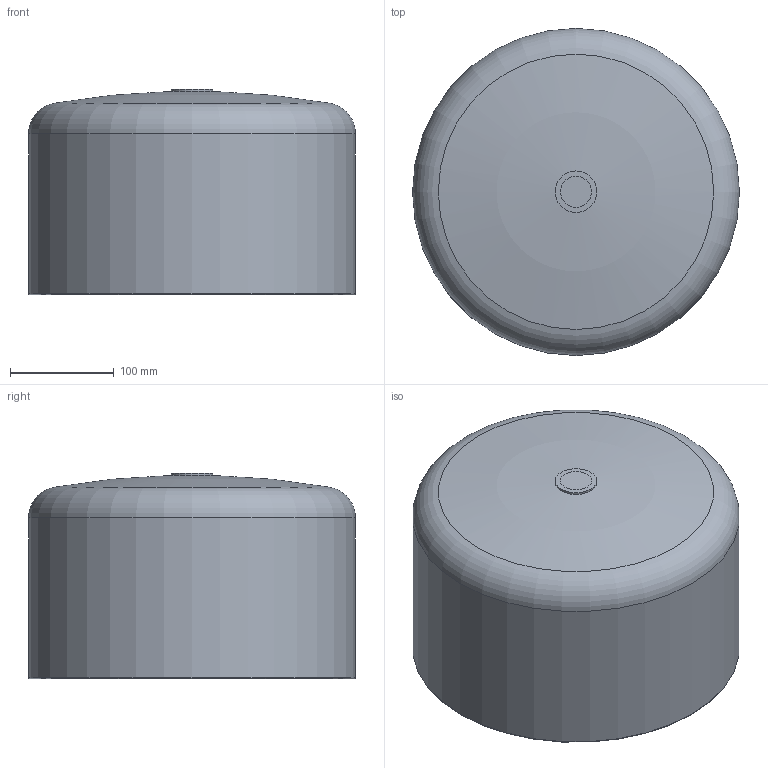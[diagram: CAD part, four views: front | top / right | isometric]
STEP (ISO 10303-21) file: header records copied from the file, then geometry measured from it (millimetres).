
FILE_DESCRIPTION(/* description */ ('Unknown'),/* implementation_level */ '2;1');
FILE_NAME(/* name */ 'CAP315B',/* time_stamp */ '2022-04-02T09:53:31+02:00',/* author */ ('Unknown'),/* organization */ ('Unknown'),/* preprocessor_version */ 'ST-DEVELOPER v18.1',/* originating_system */ 'Solid Edge',/* authorisation */ 'Unknown');
FILE_SCHEMA (('AUTOMOTIVE_DESIGN {1 0 10303 214 3 1 1}'));
Length unit declared in the file: millimetre
Products named in the file (1): CAP315B
Bounding box: 315 x 315 x 198 mm (x, y, z)
Volume: 4653778.5 mm3; surface area: 459890.7 mm2
Topology: 1 solids, 1 shells, 12 faces, 25 edges, 15 vertices
Faces by surface type: sphere 3, torus 3, cylinder 2, plane 2, cone 2
Full cylindrical faces by diameter (mm): 277.6 x1, 315 x1
Entity records: 264 total; most frequent: DIRECTION 48, CARTESIAN_POINT 35, AXIS2_PLACEMENT_3D 24, ORIENTED_EDGE 22, EDGE_LOOP 22, FACE_BOUND 22, ADVANCED_FACE 12, EDGE_CURVE 11
